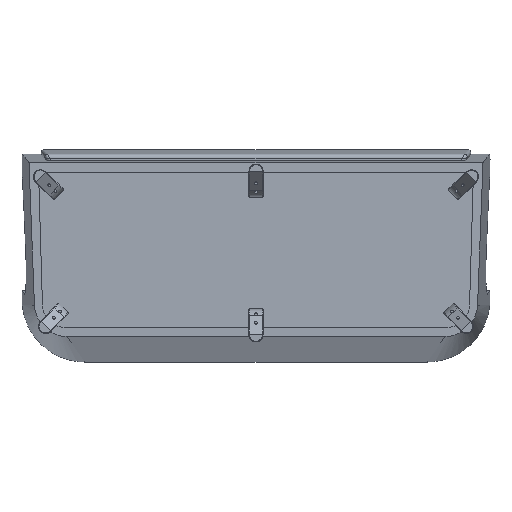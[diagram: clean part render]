
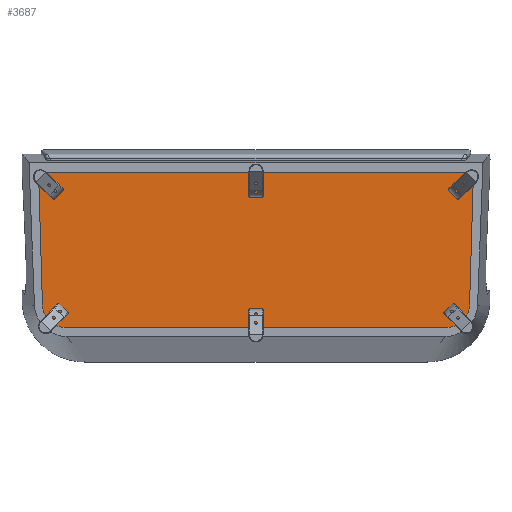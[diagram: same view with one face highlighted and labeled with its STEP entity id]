
A CAD part, front view. The second image highlights one B-rep face of the part: STEP entity #3687.
In plain terms, the highlighted planar face has unit normal (0, -1, 0).
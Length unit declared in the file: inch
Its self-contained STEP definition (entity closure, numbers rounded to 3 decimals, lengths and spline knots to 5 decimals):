
#162=PLANE('',#4059);
#336=LINE('',#7500,#516);
#340=LINE('',#7508,#520);
#344=LINE('',#7520,#524);
#348=LINE('',#7531,#528);
#516=VECTOR('',#4758,39.37008);
#520=VECTOR('',#4764,39.37008);
#524=VECTOR('',#4776,39.37008);
#528=VECTOR('',#4788,39.37008);
#835=FACE_OUTER_BOUND('',#1073,.T.);
#1073=EDGE_LOOP('',(#2785,#2786,#2787,#2788,#2789,#2790));
#1318=CIRCLE('',#4051,3.34646);
#1320=CIRCLE('',#4055,3.34646);
#1563=VERTEX_POINT('',#7498);
#1564=VERTEX_POINT('',#7499);
#1567=VERTEX_POINT('',#7507);
#1569=VERTEX_POINT('',#7513);
#1571=VERTEX_POINT('',#7519);
#1573=VERTEX_POINT('',#7525);
#1980=EDGE_CURVE('',#1563,#1564,#336,.T.);
#1984=EDGE_CURVE('',#1564,#1567,#340,.T.);
#1987=EDGE_CURVE('',#1567,#1569,#1318,.T.);
#1990=EDGE_CURVE('',#1569,#1571,#344,.T.);
#1993=EDGE_CURVE('',#1571,#1573,#1320,.T.);
#1996=EDGE_CURVE('',#1573,#1563,#348,.T.);
#2785=ORIENTED_EDGE('',*,*,#1980,.F.);
#2786=ORIENTED_EDGE('',*,*,#1996,.F.);
#2787=ORIENTED_EDGE('',*,*,#1993,.F.);
#2788=ORIENTED_EDGE('',*,*,#1990,.F.);
#2789=ORIENTED_EDGE('',*,*,#1987,.F.);
#2790=ORIENTED_EDGE('',*,*,#1984,.F.);
#3687=ADVANCED_FACE('',(#835),#162,.T.);
#4051=AXIS2_PLACEMENT_3D('',#7514,#4769,#4770);
#4055=AXIS2_PLACEMENT_3D('',#7526,#4781,#4782);
#4059=AXIS2_PLACEMENT_3D('',#7534,#4792,#4793);
#4758=DIRECTION('',(1.,0.,0.));
#4764=DIRECTION('',(-0.029,0.,-1.));
#4769=DIRECTION('center_axis',(0.,1.,0.));
#4770=DIRECTION('ref_axis',(0.,0.,-1.));
#4776=DIRECTION('',(-1.,0.,0.));
#4781=DIRECTION('center_axis',(0.,1.,0.));
#4782=DIRECTION('ref_axis',(0.,0.,-1.));
#4788=DIRECTION('',(-0.029,0.,1.));
#4792=DIRECTION('center_axis',(0.,-1.,0.));
#4793=DIRECTION('ref_axis',(0.,0.,-1.));
#7498=CARTESIAN_POINT('',(-31.47859,4.80315,-0.3937));
#7499=CARTESIAN_POINT('',(31.47859,4.80315,-0.3937));
#7500=CARTESIAN_POINT('',(31.47859,4.80315,-0.3937));
#7507=CARTESIAN_POINT('',(30.91882,4.80315,-19.58575));
#7508=CARTESIAN_POINT('',(30.91882,4.80315,-19.58575));
#7513=CARTESIAN_POINT('',(27.57379,4.80315,-22.83465));
#7514=CARTESIAN_POINT('Origin',(27.57379,4.80315,-19.48819));
#7519=CARTESIAN_POINT('',(-27.57379,4.80315,-22.83465));
#7520=CARTESIAN_POINT('',(-27.57379,4.80315,-22.83465));
#7525=CARTESIAN_POINT('',(-30.91882,4.80315,-19.58575));
#7526=CARTESIAN_POINT('Origin',(-27.57379,4.80315,-19.48819));
#7531=CARTESIAN_POINT('',(-31.47859,4.80315,-0.3937));
#7534=CARTESIAN_POINT('Origin',(-27.57379,4.80315,-19.48819));
